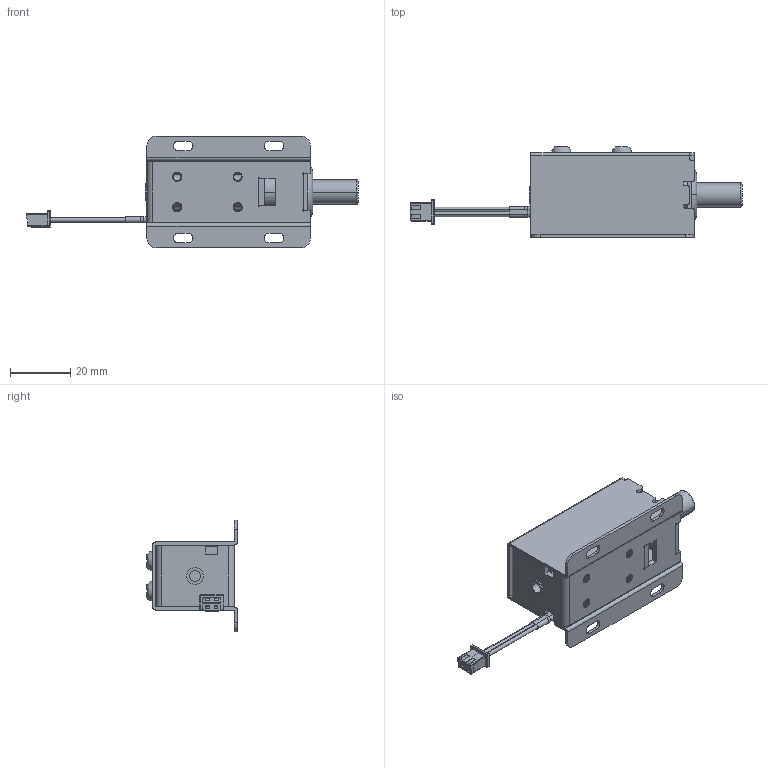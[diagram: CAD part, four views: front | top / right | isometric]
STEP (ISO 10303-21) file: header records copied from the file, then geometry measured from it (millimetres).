
FILE_DESCRIPTION((''),'2;1');
FILE_NAME('LY01E0_ASM','2025-04-17T16:45:27',('PRIME'),(''),'CREO PARAMETRIC BY PTC INC, 2023073','CREO PARAMETRIC BY PTC INC, 2023073','');
FILE_SCHEMA(('CONFIG_CONTROL_DESIGN','SHAPE_APPEARANCE_LAYERS_GROUPS'));
Length unit declared in the file: millimetre
Products named in the file (10): A-LY01B00; B-LY01B000; C-LY01B00; D-LY01B00; E-LY01D00; F-LY01D00; G-LY01B00; M3-C5MM; 0001; LY01E0_ASM
Assembly tree (10 placements, depth 2):
  LY01E0_ASM
    A-LY01B00
    B-LY01B000
    C-LY01B00
    D-LY01B00
    E-LY01D00
    F-LY01D00
    G-LY01B00
    M3-C5MM  x2
    0001
Bounding box: 109.8 x 30 x 37 mm (x, y, z)
Volume: 15496 mm3; surface area: 24674 mm2
Topology: 11 solids, 11 shells, 699 faces, 1808 edges, 1144 vertices
Faces by surface type: plane 271, cylinder 264, torus 70, bspline 68, cone 16, sphere 10
Entity records: 34105 total; most frequent: CARTESIAN_POINT 12161, ORIENTED_EDGE 3300, DIRECTION 3197, EDGE_CURVE 1650, AXIS2_PLACEMENT_3D 1154, VERTEX_POINT 1046, PRESENTATION_STYLE_ASSIGNMENT 1040, STYLED_ITEM 908
